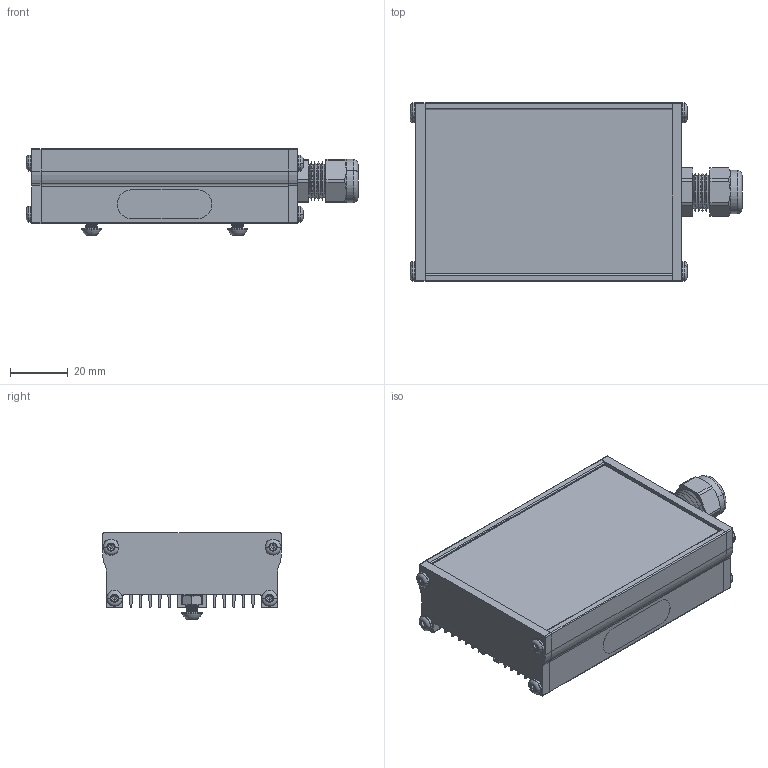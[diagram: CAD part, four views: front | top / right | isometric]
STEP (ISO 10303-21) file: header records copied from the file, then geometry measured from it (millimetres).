
FILE_DESCRIPTION (( 'STEP AP214' ), '1' );
FILE_NAME ('AL143 _NONSEALED__Default.stp', '2021-05-17T12:41:41', ( '' ), ( '' ), 'SwSTEP 2.0', 'SolidWorks 2018', '' );
FILE_SCHEMA (( 'AUTOMOTIVE_DESIGN' ));
Length unit declared in the file: inch
Products named in the file (13): BH-M4x6; 091119-03_Default<As Machined>; 091105; 093470_DEFAULT; NP-07-BR_Default<As Machined>; 093145_93701A253; 091117-03; CD07AA-BK; 10mm Label_Default<As Machined>; 091104; HN-M4_90592A016; 091052; AL143 _NONSEALED__Default
Assembly tree (22 placements, depth 3):
  AL143 _NONSEALED__Default
    091117-03
    093470_DEFAULT  x2
    091105
    091119-03_Default<As Machined>
    091104
    CD07AA-BK
    NP-07-BR_Default<As Machined>
    093145_93701A253  x8
    091052
      10mm Label_Default<As Machined>
    HN-M4_90592A016  x2
    BH-M4x6  x2
Bounding box: 115.19 x 61.91 x 30.05 mm (x, y, z)
Volume: 42800.5 mm3; surface area: 57032.5 mm2
Topology: 22 solids, 22 shells, 1540 faces, 4028 edges, 2482 vertices
Faces by surface type: cylinder 844, cone 334, plane 266, torus 60, bspline 36
Entity records: 26343 total; most frequent: CARTESIAN_POINT 8495, ORIENTED_EDGE 3670, DIRECTION 3604, EDGE_CURVE 1835, AXIS2_PLACEMENT_3D 1352, VERTEX_POINT 1160, VECTOR 900, LINE 900
